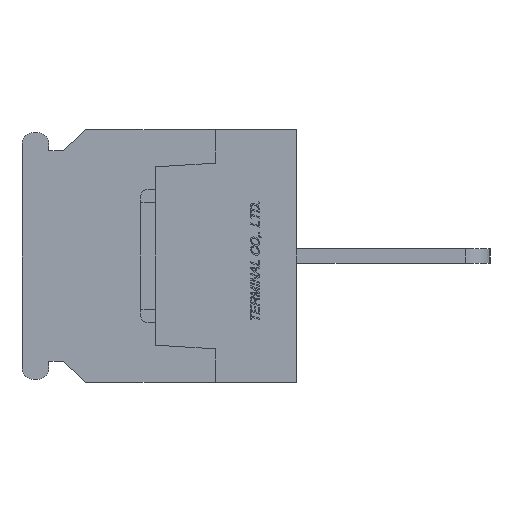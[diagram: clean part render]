
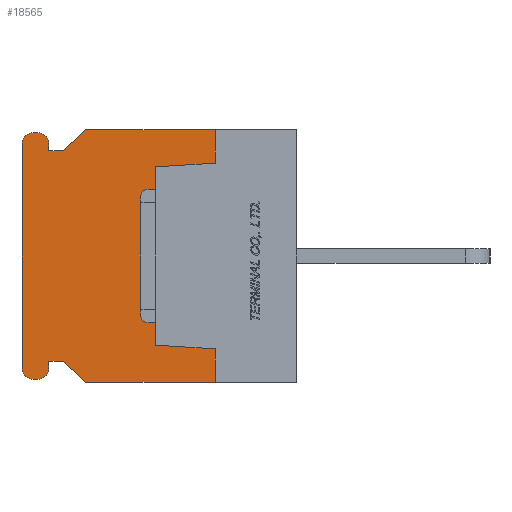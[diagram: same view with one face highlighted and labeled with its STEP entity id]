
A CAD part, left-side view. The second image highlights one B-rep face of the part: STEP entity #18565.
In plain terms, the highlighted planar face has unit normal (-1, 0, 0).
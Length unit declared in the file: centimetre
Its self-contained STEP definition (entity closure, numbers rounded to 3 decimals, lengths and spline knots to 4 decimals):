
#1127=CIRCLE('',#32010,0.075);
#1128=CIRCLE('',#32011,0.075);
#1129=CIRCLE('',#32012,0.075);
#1130=CIRCLE('',#32013,0.075);
#2001=VERTEX_POINT('',#26762);
#2002=VERTEX_POINT('',#26764);
#2056=VERTEX_POINT('',#26901);
#2057=VERTEX_POINT('',#26903);
#2297=VERTEX_POINT('',#27680);
#2298=VERTEX_POINT('',#27682);
#2299=VERTEX_POINT('',#27684);
#2300=VERTEX_POINT('',#27686);
#2301=VERTEX_POINT('',#27688);
#2302=VERTEX_POINT('',#27690);
#2303=VERTEX_POINT('',#27692);
#2304=VERTEX_POINT('',#27694);
#2305=VERTEX_POINT('',#27696);
#2306=VERTEX_POINT('',#27698);
#2307=VERTEX_POINT('',#27700);
#2308=VERTEX_POINT('',#27702);
#2309=VERTEX_POINT('',#27704);
#2310=VERTEX_POINT('',#27707);
#2311=VERTEX_POINT('',#27709);
#2312=VERTEX_POINT('',#27711);
#3783=VECTOR('',#21938,1.);
#3849=VECTOR('',#22030,1.);
#4180=VECTOR('',#22653,1.);
#4181=VECTOR('',#22654,1.);
#4182=VECTOR('',#22655,1.);
#4183=VECTOR('',#22656,1.);
#4184=VECTOR('',#22659,1.);
#4185=VECTOR('',#22662,1.);
#4186=VECTOR('',#22665,1.);
#4187=VECTOR('',#22668,1.);
#4188=VECTOR('',#22669,1.);
#4189=VECTOR('',#22670,1.);
#4190=VECTOR('',#22671,1.);
#4191=VECTOR('',#22672,1.);
#4192=VECTOR('',#22673,1.);
#4193=VECTOR('',#22674,1.);
#5823=LINE('',#26763,#3783);
#5889=LINE('',#26902,#3849);
#6220=LINE('',#27679,#4180);
#6221=LINE('',#27681,#4181);
#6222=LINE('',#27683,#4182);
#6223=LINE('',#27685,#4183);
#6224=LINE('',#27689,#4184);
#6225=LINE('',#27693,#4185);
#6226=LINE('',#27697,#4186);
#6227=LINE('',#27701,#4187);
#6228=LINE('',#27703,#4188);
#6229=LINE('',#27705,#4189);
#6230=LINE('',#27706,#4190);
#6231=LINE('',#27708,#4191);
#6232=LINE('',#27710,#4192);
#6233=LINE('',#27712,#4193);
#8339=EDGE_CURVE('',#2001,#2002,#5823,.T.);
#8409=EDGE_CURVE('',#2056,#2057,#5889,.T.);
#8798=EDGE_CURVE('',#2297,#2057,#6220,.T.);
#8799=EDGE_CURVE('',#2298,#2056,#6221,.T.);
#8800=EDGE_CURVE('',#2299,#2298,#6222,.T.);
#8801=EDGE_CURVE('',#2300,#2299,#6223,.T.);
#8802=EDGE_CURVE('',#2301,#2300,#1127,.T.);
#8803=EDGE_CURVE('',#2302,#2301,#6224,.T.);
#8804=EDGE_CURVE('',#2303,#2302,#1128,.T.);
#8805=EDGE_CURVE('',#2304,#2303,#6225,.T.);
#8806=EDGE_CURVE('',#2305,#2304,#1129,.T.);
#8807=EDGE_CURVE('',#2306,#2305,#6226,.T.);
#8808=EDGE_CURVE('',#2307,#2306,#1130,.T.);
#8809=EDGE_CURVE('',#2308,#2307,#6227,.T.);
#8810=EDGE_CURVE('',#2309,#2308,#6228,.T.);
#8811=EDGE_CURVE('',#2002,#2309,#6229,.T.);
#8812=EDGE_CURVE('',#2001,#2310,#6230,.T.);
#8813=EDGE_CURVE('',#2310,#2311,#6231,.T.);
#8814=EDGE_CURVE('',#2311,#2312,#6232,.T.);
#8815=EDGE_CURVE('',#2312,#2297,#6233,.T.);
#13206=ORIENTED_EDGE('',*,*,#8798,.T.);
#13207=ORIENTED_EDGE('',*,*,#8409,.F.);
#13208=ORIENTED_EDGE('',*,*,#8799,.F.);
#13209=ORIENTED_EDGE('',*,*,#8800,.F.);
#13210=ORIENTED_EDGE('',*,*,#8801,.F.);
#13211=ORIENTED_EDGE('',*,*,#8802,.F.);
#13212=ORIENTED_EDGE('',*,*,#8803,.F.);
#13213=ORIENTED_EDGE('',*,*,#8804,.F.);
#13214=ORIENTED_EDGE('',*,*,#8805,.F.);
#13215=ORIENTED_EDGE('',*,*,#8806,.F.);
#13216=ORIENTED_EDGE('',*,*,#8807,.F.);
#13217=ORIENTED_EDGE('',*,*,#8808,.F.);
#13218=ORIENTED_EDGE('',*,*,#8809,.F.);
#13219=ORIENTED_EDGE('',*,*,#8810,.F.);
#13220=ORIENTED_EDGE('',*,*,#8811,.F.);
#13221=ORIENTED_EDGE('',*,*,#8339,.F.);
#13222=ORIENTED_EDGE('',*,*,#8812,.T.);
#13223=ORIENTED_EDGE('',*,*,#8813,.T.);
#13224=ORIENTED_EDGE('',*,*,#8814,.T.);
#13225=ORIENTED_EDGE('',*,*,#8815,.T.);
#16268=EDGE_LOOP('',(#13206,#13207,#13208,#13209,#13210,#13211,#13212,#13213,
#13214,#13215,#13216,#13217,#13218,#13219,#13220,#13221,#13222,#13223,#13224,
#13225));
#17472=FACE_BOUND('',#16268,.T.);
#18565=ADVANCED_FACE('',(#17472),#19462,.F.);
#19462=PLANE('',#32009);
#21938=DIRECTION('',(0.,1.,0.));
#22030=DIRECTION('',(0.,-1.,0.));
#22652=DIRECTION('',(1.,0.,0.));
#22653=DIRECTION('',(0.,0.,1.));
#22654=DIRECTION('',(0.,-0.731,0.682));
#22655=DIRECTION('',(0.,-1.,0.));
#22656=DIRECTION('',(0.,0.,-1.));
#22657=DIRECTION('',(1.,0.,0.));
#22658=DIRECTION('',(0.,0.,-0.075));
#22659=DIRECTION('',(0.,-1.,0.));
#22660=DIRECTION('',(1.,0.,0.));
#22661=DIRECTION('',(0.,0.,-0.075));
#22662=DIRECTION('',(0.,0.,1.));
#22663=DIRECTION('',(1.,0.,0.));
#22664=DIRECTION('',(0.,0.,-0.075));
#22665=DIRECTION('',(0.,1.,0.));
#22666=DIRECTION('',(1.,0.,0.));
#22667=DIRECTION('',(0.,0.,-0.075));
#22668=DIRECTION('',(0.,0.,-1.));
#22669=DIRECTION('',(0.,1.,0.));
#22670=DIRECTION('',(0.,0.731,0.682));
#22671=DIRECTION('',(0.,0.,1.));
#22672=DIRECTION('',(0.,0.998,0.062));
#22673=DIRECTION('',(0.,0.,1.));
#22674=DIRECTION('',(0.,-0.998,0.062));
#26762=CARTESIAN_POINT('',(-1.,0.55,-0.85));
#26763=CARTESIAN_POINT('',(-1.,0.,-0.85));
#26764=CARTESIAN_POINT('',(-1.,1.42,-0.85));
#26901=CARTESIAN_POINT('',(-1.,1.42,0.85));
#26902=CARTESIAN_POINT('',(-1.,1.42,0.85));
#26903=CARTESIAN_POINT('',(-1.,0.55,0.85));
#27678=CARTESIAN_POINT('',(-1.,0.9383,0.));
#27679=CARTESIAN_POINT('',(-1.,0.55,0.3687));
#27680=CARTESIAN_POINT('',(-1.,0.55,0.625));
#27681=CARTESIAN_POINT('',(-1.,1.57,0.71));
#27682=CARTESIAN_POINT('',(-1.,1.57,0.71));
#27683=CARTESIAN_POINT('',(-1.,1.67,0.71));
#27684=CARTESIAN_POINT('',(-1.,1.67,0.71));
#27685=CARTESIAN_POINT('',(-1.,1.67,0.755));
#27686=CARTESIAN_POINT('',(-1.,1.67,0.755));
#27687=CARTESIAN_POINT('',(-1.,1.745,0.755));
#27688=CARTESIAN_POINT('',(-1.,1.745,0.83));
#27689=CARTESIAN_POINT('',(-1.,1.775,0.83));
#27690=CARTESIAN_POINT('',(-1.,1.775,0.83));
#27691=CARTESIAN_POINT('',(-1.,1.775,0.755));
#27692=CARTESIAN_POINT('',(-1.,1.85,0.755));
#27693=CARTESIAN_POINT('',(-1.,1.85,-0.755));
#27694=CARTESIAN_POINT('',(-1.,1.85,-0.755));
#27695=CARTESIAN_POINT('',(-1.,1.775,-0.755));
#27696=CARTESIAN_POINT('',(-1.,1.775,-0.83));
#27697=CARTESIAN_POINT('',(-1.,1.745,-0.83));
#27698=CARTESIAN_POINT('',(-1.,1.745,-0.83));
#27699=CARTESIAN_POINT('',(-1.,1.745,-0.755));
#27700=CARTESIAN_POINT('',(-1.,1.67,-0.755));
#27701=CARTESIAN_POINT('',(-1.,1.67,-0.71));
#27702=CARTESIAN_POINT('',(-1.,1.67,-0.71));
#27703=CARTESIAN_POINT('',(-1.,1.57,-0.71));
#27704=CARTESIAN_POINT('',(-1.,1.57,-0.71));
#27705=CARTESIAN_POINT('',(-1.,1.42,-0.85));
#27706=CARTESIAN_POINT('',(-1.,0.55,-0.3688));
#27707=CARTESIAN_POINT('',(-1.,0.55,-0.625));
#27708=CARTESIAN_POINT('',(-1.,0.8629,-0.6054));
#27709=CARTESIAN_POINT('',(-1.,0.95,-0.6));
#27710=CARTESIAN_POINT('',(-1.,0.95,0.));
#27711=CARTESIAN_POINT('',(-1.,0.95,0.6));
#27712=CARTESIAN_POINT('',(-1.,0.8629,0.6054));
#32009=AXIS2_PLACEMENT_3D('',#27678,#22652,$);
#32010=AXIS2_PLACEMENT_3D('',#27687,#22657,#22658);
#32011=AXIS2_PLACEMENT_3D('',#27691,#22660,#22661);
#32012=AXIS2_PLACEMENT_3D('',#27695,#22663,#22664);
#32013=AXIS2_PLACEMENT_3D('',#27699,#22666,#22667);
